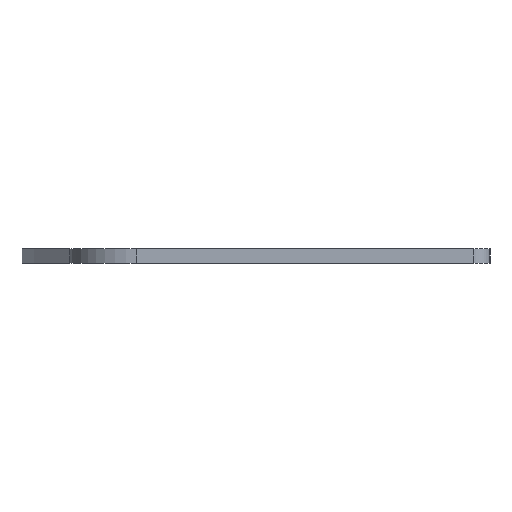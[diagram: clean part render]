
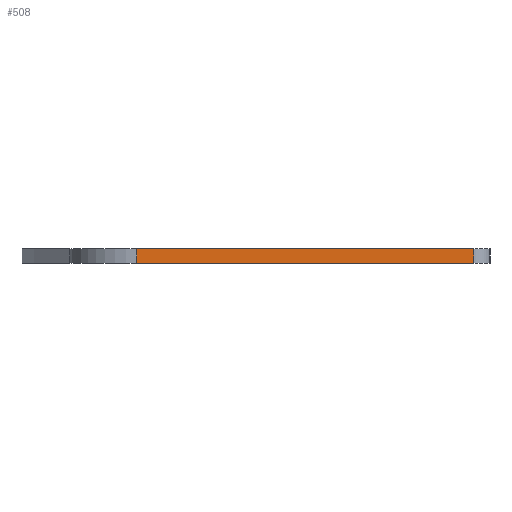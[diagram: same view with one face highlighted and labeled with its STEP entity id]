
A CAD part, left-side view. The second image highlights one B-rep face of the part: STEP entity #508.
In plain terms, the highlighted planar face has unit normal (-1, 0, 0).
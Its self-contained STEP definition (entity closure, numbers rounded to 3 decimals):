
#44 = CYLINDRICAL_SURFACE('',#45,1.409);
#45 = AXIS2_PLACEMENT_3D('',#46,#47,#48);
#46 = CARTESIAN_POINT('',(-86.45,19.241,
    17.615));
#47 = DIRECTION('',(-0.,-0.,-1.));
#48 = DIRECTION('',(-1.,0.,0.));
#71 = PLANE('',#72);
#72 = AXIS2_PLACEMENT_3D('',#73,#74,#75);
#73 = CARTESIAN_POINT('',(0.,36.683,
    18.835));
#74 = DIRECTION('',(0.,0.,1.));
#75 = DIRECTION('',(1.,0.,-0.));
#124 = PLANE('',#125);
#125 = AXIS2_PLACEMENT_3D('',#126,#127,#128);
#126 = CARTESIAN_POINT('',(0.,36.683,
    17.615));
#127 = DIRECTION('',(0.,0.,1.));
#128 = DIRECTION('',(1.,0.,-0.));
#402 = CYLINDRICAL_SURFACE('',#403,5.745);
#403 = AXIS2_PLACEMENT_3D('',#404,#405,#406);
#404 = CARTESIAN_POINT('',(-82.114,48.209,
    17.615));
#405 = DIRECTION('',(-0.,-0.,-1.));
#406 = DIRECTION('',(-0.099,0.995,0.));
#439 = VERTEX_POINT('',#440);
#440 = CARTESIAN_POINT('',(-87.859,48.209,
    18.835));
#461 = EDGE_CURVE('',#462,#439,#464,.T.);
#462 = VERTEX_POINT('',#463);
#463 = CARTESIAN_POINT('',(-87.859,48.209,
    17.615));
#464 = SURFACE_CURVE('',#465,(#469,#475),.PCURVE_S1.);
#465 = LINE('',#466,#467);
#466 = CARTESIAN_POINT('',(-87.859,48.209,
    17.615));
#467 = VECTOR('',#468,1.);
#468 = DIRECTION('',(0.,0.,1.));
#469 = PCURVE('',#402,#470);
#470 = DEFINITIONAL_REPRESENTATION('',(#471),#474);
#471 = B_SPLINE_CURVE_WITH_KNOTS('',1,(#472,#473),.UNSPECIFIED.,.F.,.F.,
  (2,2),(0.,1.22),.PIECEWISE_BEZIER_KNOTS.);
#472 = CARTESIAN_POINT('',(-7.754,0.));
#473 = CARTESIAN_POINT('',(-7.754,-1.22));
#474 = ( GEOMETRIC_REPRESENTATION_CONTEXT(2) 
PARAMETRIC_REPRESENTATION_CONTEXT() REPRESENTATION_CONTEXT('2D SPACE',''
  ) );
#475 = PCURVE('',#476,#481);
#476 = PLANE('',#477);
#477 = AXIS2_PLACEMENT_3D('',#478,#479,#480);
#478 = CARTESIAN_POINT('',(-87.859,48.209,
    17.615));
#479 = DIRECTION('',(1.,0.,-0.));
#480 = DIRECTION('',(0.,-1.,0.));
#481 = DEFINITIONAL_REPRESENTATION('',(#482),#486);
#482 = LINE('',#483,#484);
#483 = CARTESIAN_POINT('',(0.,0.));
#484 = VECTOR('',#485,1.);
#485 = DIRECTION('',(0.,-1.));
#486 = ( GEOMETRIC_REPRESENTATION_CONTEXT(2) 
PARAMETRIC_REPRESENTATION_CONTEXT() REPRESENTATION_CONTEXT('2D SPACE',''
  ) );
#508 = ADVANCED_FACE('',(#509),#476,.F.);
#509 = FACE_BOUND('',#510,.F.);
#510 = EDGE_LOOP('',(#511,#512,#535,#557));
#511 = ORIENTED_EDGE('',*,*,#461,.T.);
#512 = ORIENTED_EDGE('',*,*,#513,.T.);
#513 = EDGE_CURVE('',#439,#514,#516,.T.);
#514 = VERTEX_POINT('',#515);
#515 = CARTESIAN_POINT('',(-87.859,19.241,
    18.835));
#516 = SURFACE_CURVE('',#517,(#521,#528),.PCURVE_S1.);
#517 = LINE('',#518,#519);
#518 = CARTESIAN_POINT('',(-87.859,48.209,
    18.835));
#519 = VECTOR('',#520,1.);
#520 = DIRECTION('',(0.,-1.,-0.));
#521 = PCURVE('',#476,#522);
#522 = DEFINITIONAL_REPRESENTATION('',(#523),#527);
#523 = LINE('',#524,#525);
#524 = CARTESIAN_POINT('',(0.,-1.22));
#525 = VECTOR('',#526,1.);
#526 = DIRECTION('',(1.,0.));
#527 = ( GEOMETRIC_REPRESENTATION_CONTEXT(2) 
PARAMETRIC_REPRESENTATION_CONTEXT() REPRESENTATION_CONTEXT('2D SPACE',''
  ) );
#528 = PCURVE('',#71,#529);
#529 = DEFINITIONAL_REPRESENTATION('',(#530),#534);
#530 = LINE('',#531,#532);
#531 = CARTESIAN_POINT('',(-87.859,11.526));
#532 = VECTOR('',#533,1.);
#533 = DIRECTION('',(0.,-1.));
#534 = ( GEOMETRIC_REPRESENTATION_CONTEXT(2) 
PARAMETRIC_REPRESENTATION_CONTEXT() REPRESENTATION_CONTEXT('2D SPACE',''
  ) );
#535 = ORIENTED_EDGE('',*,*,#536,.F.);
#536 = EDGE_CURVE('',#537,#514,#539,.T.);
#537 = VERTEX_POINT('',#538);
#538 = CARTESIAN_POINT('',(-87.859,19.241,
    17.615));
#539 = SURFACE_CURVE('',#540,(#544,#551),.PCURVE_S1.);
#540 = LINE('',#541,#542);
#541 = CARTESIAN_POINT('',(-87.859,19.241,
    17.615));
#542 = VECTOR('',#543,1.);
#543 = DIRECTION('',(0.,0.,1.));
#544 = PCURVE('',#476,#545);
#545 = DEFINITIONAL_REPRESENTATION('',(#546),#550);
#546 = LINE('',#547,#548);
#547 = CARTESIAN_POINT('',(28.968,0.));
#548 = VECTOR('',#549,1.);
#549 = DIRECTION('',(0.,-1.));
#550 = ( GEOMETRIC_REPRESENTATION_CONTEXT(2) 
PARAMETRIC_REPRESENTATION_CONTEXT() REPRESENTATION_CONTEXT('2D SPACE',''
  ) );
#551 = PCURVE('',#44,#552);
#552 = DEFINITIONAL_REPRESENTATION('',(#553),#556);
#553 = B_SPLINE_CURVE_WITH_KNOTS('',1,(#554,#555),.UNSPECIFIED.,.F.,.F.,
  (2,2),(0.,1.22),.PIECEWISE_BEZIER_KNOTS.);
#554 = CARTESIAN_POINT('',(-6.283,0.));
#555 = CARTESIAN_POINT('',(-6.283,-1.22));
#556 = ( GEOMETRIC_REPRESENTATION_CONTEXT(2) 
PARAMETRIC_REPRESENTATION_CONTEXT() REPRESENTATION_CONTEXT('2D SPACE',''
  ) );
#557 = ORIENTED_EDGE('',*,*,#558,.F.);
#558 = EDGE_CURVE('',#462,#537,#559,.T.);
#559 = SURFACE_CURVE('',#560,(#564,#571),.PCURVE_S1.);
#560 = LINE('',#561,#562);
#561 = CARTESIAN_POINT('',(-87.859,48.209,
    17.615));
#562 = VECTOR('',#563,1.);
#563 = DIRECTION('',(0.,-1.,-0.));
#564 = PCURVE('',#476,#565);
#565 = DEFINITIONAL_REPRESENTATION('',(#566),#570);
#566 = LINE('',#567,#568);
#567 = CARTESIAN_POINT('',(0.,0.));
#568 = VECTOR('',#569,1.);
#569 = DIRECTION('',(1.,0.));
#570 = ( GEOMETRIC_REPRESENTATION_CONTEXT(2) 
PARAMETRIC_REPRESENTATION_CONTEXT() REPRESENTATION_CONTEXT('2D SPACE',''
  ) );
#571 = PCURVE('',#124,#572);
#572 = DEFINITIONAL_REPRESENTATION('',(#573),#577);
#573 = LINE('',#574,#575);
#574 = CARTESIAN_POINT('',(-87.859,11.526));
#575 = VECTOR('',#576,1.);
#576 = DIRECTION('',(0.,-1.));
#577 = ( GEOMETRIC_REPRESENTATION_CONTEXT(2) 
PARAMETRIC_REPRESENTATION_CONTEXT() REPRESENTATION_CONTEXT('2D SPACE',''
  ) );
